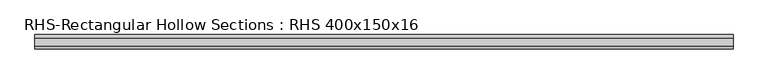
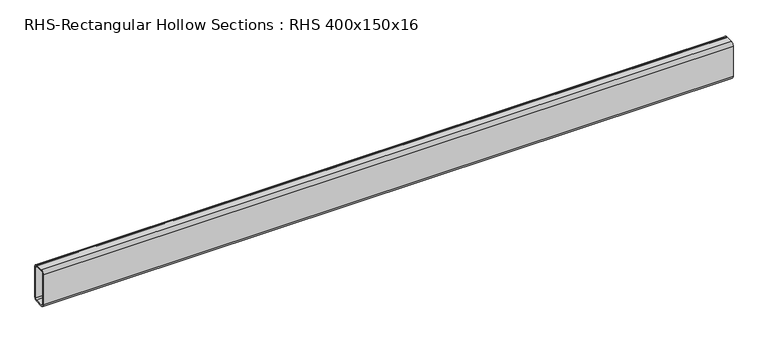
"""IFC4 building model written with IfcOpenShell, lengths in millimetres: beam geometry, RHS-Rectangular Hollow Sections : RHS 400x150x16."""

from ifc_helpers import new_model, si_unit, point, frame, frame_2d, origin, place, context, project, spatial, polyline, circle_curve, trimmed, segment, composite_curve, outline, extrude, source, transform, mapped, element, save


def rhs_rectangular_hollow_sections_rhs_400x150x16_ad5eef5e(model_context):
    return source(origin(), model_context, "Body", "SweptSolid", [
        extrude(outline(composite_curve([segment(polyline([(75.0, 168.0), (75.0, -168.0)]), True, "CONTINUOUS"), segment(trimmed(circle_curve(frame_2d((43.0, -168.0)), 32.0), [point((75.0, -168.0))], [point((43.0, -200.0))], False, "CARTESIAN"), True, "CONTINUOUS"), segment(polyline([(43.0, -200.0), (-43.0, -200.0)]), True, "CONTINUOUS"), segment(trimmed(circle_curve(frame_2d((-43.0, -168.0)), 32.0), [point((-43.0, -200.0))], [point((-75.0, -168.0))], False, "CARTESIAN"), True, "CONTINUOUS"), segment(polyline([(-75.0, -168.0), (-75.0, 168.0)]), True, "CONTINUOUS"), segment(trimmed(circle_curve(frame_2d((-43.0, 168.0)), 32.0), [point((-75.0, 168.0))], [point((-43.0, 200.0))], False, "CARTESIAN"), True, "CONTINUOUS"), segment(polyline([(-43.0, 200.0), (43.0, 200.0)]), True, "CONTINUOUS"), segment(trimmed(circle_curve(frame_2d((43.0, 168.0)), 32.0), [point((43.0, 200.0))], [point((75.0, 168.0))], False, "CARTESIAN"), True, "CONTINUOUS")], self_intersect=False), holes=[composite_curve([segment(trimmed(circle_curve(frame_2d((-43.0, 168.0)), 16.0), [point((-43.0, 184.0))], [point((-59.0, 168.0))], True, "CARTESIAN"), True, "CONTINUOUS"), segment(polyline([(-59.0, 168.0), (-59.0, -168.0)]), True, "CONTINUOUS"), segment(trimmed(circle_curve(frame_2d((-43.0, -168.0)), 16.0), [point((-59.0, -168.0))], [point((-43.0, -184.0))], True, "CARTESIAN"), True, "CONTINUOUS"), segment(polyline([(-43.0, -184.0), (43.0, -184.0)]), True, "CONTINUOUS"), segment(trimmed(circle_curve(frame_2d((43.0, -168.0)), 16.0), [point((43.0, -184.0))], [point((59.0, -168.0))], True, "CARTESIAN"), True, "CONTINUOUS"), segment(polyline([(59.0, -168.0), (59.0, 168.0)]), True, "CONTINUOUS"), segment(trimmed(circle_curve(frame_2d((43.0, 168.0)), 16.0), [point((59.0, 168.0))], [point((43.0, 184.0))], True, "CARTESIAN"), True, "CONTINUOUS"), segment(polyline([(43.0, 184.0), (-43.0, 184.0)]), True, "CONTINUOUS")], self_intersect=False)]), frame((-3604.5, 0.0, 0.0), z_axis=(1.0, 0.0, 0.0), x_axis=(0.0, 1.0, 0.0)), (0.0, 0.0, 1.0), 7209.0),
    ])


if __name__ == "__main__":
    model = new_model("IFC4")
    model_context = context("Model", 3, world=origin())
    ifc_project = project(units=[si_unit("LENGTHUNIT", "METRE", prefix="MILLI")], contexts=[model_context])
    site = spatial("IfcSite", under=ifc_project)
    building = spatial("IfcBuilding", under=site)
    placement = place(None, origin())
    rhs_rectangular_hollow_sections_rhs_400x150x16_shape = rhs_rectangular_hollow_sections_rhs_400x150x16_ad5eef5e(model_context)
    element("IfcBeam", 1, ObjectType="RHS-Rectangular Hollow Sections : RHS 400x150x16", at=placement, inside=building, context=model_context, shape_type="MappedRepresentation", body=[
        mapped(rhs_rectangular_hollow_sections_rhs_400x150x16_shape, transform((0.0, 0.0, 0.0), x_axis=(1.0, 0.0, 0.0), y_axis=(0.0, 1.0, 0.0), z_axis=(0.0, 0.0, 1.0))),
    ])
    save(model, "model.ifc")
